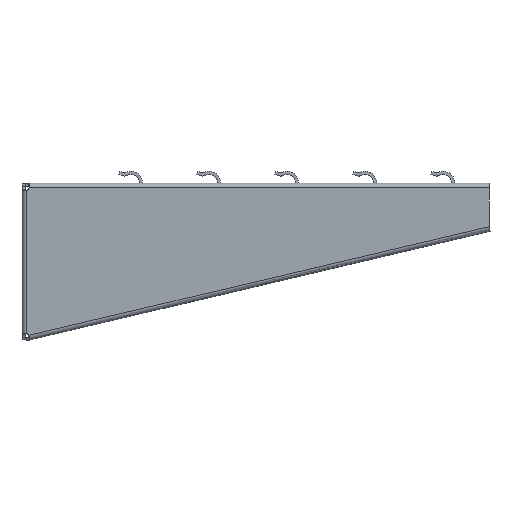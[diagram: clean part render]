
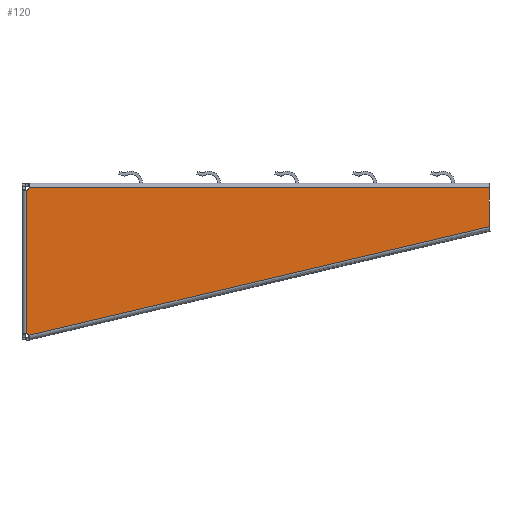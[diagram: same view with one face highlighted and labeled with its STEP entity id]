
A CAD part, left-side view. The second image highlights one B-rep face of the part: STEP entity #120.
In plain terms, the highlighted planar face has unit normal (-1, 0, 0).
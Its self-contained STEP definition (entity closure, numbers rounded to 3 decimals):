
#120=ADVANCED_FACE('',(#262),#2353,.T.);
#262=FACE_OUTER_BOUND('',#413,.T.);
#413=EDGE_LOOP('',(#887,#888,#889,#890,#891,#892,#893,#894,#895,#896,#897,
#898,#899,#900));
#887=ORIENTED_EDGE('',*,*,#1451,.T.);
#888=ORIENTED_EDGE('',*,*,#1349,.T.);
#889=ORIENTED_EDGE('',*,*,#1341,.T.);
#890=ORIENTED_EDGE('',*,*,#1338,.T.);
#891=ORIENTED_EDGE('',*,*,#1335,.T.);
#892=ORIENTED_EDGE('',*,*,#1332,.T.);
#893=ORIENTED_EDGE('',*,*,#1449,.T.);
#894=ORIENTED_EDGE('',*,*,#1347,.T.);
#895=ORIENTED_EDGE('',*,*,#1329,.T.);
#896=ORIENTED_EDGE('',*,*,#1326,.T.);
#897=ORIENTED_EDGE('',*,*,#1323,.T.);
#898=ORIENTED_EDGE('',*,*,#1320,.T.);
#899=ORIENTED_EDGE('',*,*,#1455,.F.);
#900=ORIENTED_EDGE('',*,*,#1343,.T.);
#1320=EDGE_CURVE('',#2058,#2056,#1628,.T.);
#1323=EDGE_CURVE('',#2060,#2058,#1631,.T.);
#1326=EDGE_CURVE('',#2062,#2060,#1634,.T.);
#1329=EDGE_CURVE('',#2064,#2062,#1637,.T.);
#1332=EDGE_CURVE('',#2066,#2052,#1640,.T.);
#1335=EDGE_CURVE('',#2068,#2066,#1643,.T.);
#1338=EDGE_CURVE('',#2070,#2068,#1646,.T.);
#1341=EDGE_CURVE('',#2072,#2070,#1649,.T.);
#1343=EDGE_CURVE('',#2074,#2075,#1918,.T.);
#1347=EDGE_CURVE('',#2054,#2064,#1652,.T.);
#1349=EDGE_CURVE('',#2078,#2072,#1654,.T.);
#1449=EDGE_CURVE('',#2052,#2054,#1720,.T.);
#1451=EDGE_CURVE('',#2075,#2078,#1722,.T.);
#1455=EDGE_CURVE('',#2074,#2056,#1726,.T.);
#1628=(
BOUNDED_CURVE()
B_SPLINE_CURVE(2,(#3738,#3739,#3740),.UNSPECIFIED.,.F.,.F.)
B_SPLINE_CURVE_WITH_KNOTS((3,3),(-699.049,-698.449),
 .UNSPECIFIED.)
CURVE()
GEOMETRIC_REPRESENTATION_ITEM()
RATIONAL_B_SPLINE_CURVE((1.,0.993,1.))
REPRESENTATION_ITEM('')
);
#1631=(
BOUNDED_CURVE()
B_SPLINE_CURVE(2,(#3746,#3747,#3748),.UNSPECIFIED.,.F.,.F.)
B_SPLINE_CURVE_WITH_KNOTS((3,3),(-699.056,-699.049),
 .UNSPECIFIED.)
CURVE()
GEOMETRIC_REPRESENTATION_ITEM()
RATIONAL_B_SPLINE_CURVE((1.,1.,1.))
REPRESENTATION_ITEM('')
);
#1634=(
BOUNDED_CURVE()
B_SPLINE_CURVE(2,(#3754,#3755,#3756),.UNSPECIFIED.,.F.,.F.)
B_SPLINE_CURVE_WITH_KNOTS((3,3),(-699.657,-699.056),
 .UNSPECIFIED.)
CURVE()
GEOMETRIC_REPRESENTATION_ITEM()
RATIONAL_B_SPLINE_CURVE((1.,0.993,1.))
REPRESENTATION_ITEM('')
);
#1637=(
BOUNDED_CURVE()
B_SPLINE_CURVE(2,(#3762,#3763,#3764),.UNSPECIFIED.,.F.,.F.)
B_SPLINE_CURVE_WITH_KNOTS((3,3),(-699.661,-699.657),
 .UNSPECIFIED.)
CURVE()
GEOMETRIC_REPRESENTATION_ITEM()
RATIONAL_B_SPLINE_CURVE((1.,1.,1.))
REPRESENTATION_ITEM('')
);
#1640=(
BOUNDED_CURVE()
B_SPLINE_CURVE(2,(#3770,#3771,#3772),.UNSPECIFIED.,.F.,.F.)
B_SPLINE_CURVE_WITH_KNOTS((3,3),(-859.88,-859.301),
 .UNSPECIFIED.)
CURVE()
GEOMETRIC_REPRESENTATION_ITEM()
RATIONAL_B_SPLINE_CURVE((1.,0.993,1.))
REPRESENTATION_ITEM('')
);
#1643=(
BOUNDED_CURVE()
B_SPLINE_CURVE(2,(#3778,#3779,#3780),.UNSPECIFIED.,.F.,.F.)
B_SPLINE_CURVE_WITH_KNOTS((3,3),(-859.888,-859.88),
 .UNSPECIFIED.)
CURVE()
GEOMETRIC_REPRESENTATION_ITEM()
RATIONAL_B_SPLINE_CURVE((1.,1.,1.))
REPRESENTATION_ITEM('')
);
#1646=(
BOUNDED_CURVE()
B_SPLINE_CURVE(2,(#3786,#3787,#3788),.UNSPECIFIED.,.F.,.F.)
B_SPLINE_CURVE_WITH_KNOTS((3,3),(-861.069,-859.888),
 .UNSPECIFIED.)
CURVE()
GEOMETRIC_REPRESENTATION_ITEM()
RATIONAL_B_SPLINE_CURVE((1.,0.972,1.))
REPRESENTATION_ITEM('')
);
#1649=(
BOUNDED_CURVE()
B_SPLINE_CURVE(2,(#3794,#3795,#3796),.UNSPECIFIED.,.F.,.F.)
B_SPLINE_CURVE_WITH_KNOTS((3,3),(-861.072,-861.069),
 .UNSPECIFIED.)
CURVE()
GEOMETRIC_REPRESENTATION_ITEM()
RATIONAL_B_SPLINE_CURVE((1.,1.,1.))
REPRESENTATION_ITEM('')
);
#1652=(
BOUNDED_CURVE()
B_SPLINE_CURVE(2,(#3813,#3814,#3815),.UNSPECIFIED.,.F.,.F.)
B_SPLINE_CURVE_WITH_KNOTS((3,3),(-700.247,-699.661),
 .UNSPECIFIED.)
CURVE()
GEOMETRIC_REPRESENTATION_ITEM()
RATIONAL_B_SPLINE_CURVE((1.,0.994,1.))
REPRESENTATION_ITEM('')
);
#1654=(
BOUNDED_CURVE()
B_SPLINE_CURVE(2,(#3819,#3820,#3821),.UNSPECIFIED.,.F.,.F.)
B_SPLINE_CURVE_WITH_KNOTS((3,3),(-861.658,-861.072),
 .UNSPECIFIED.)
CURVE()
GEOMETRIC_REPRESENTATION_ITEM()
RATIONAL_B_SPLINE_CURVE((1.,0.993,1.))
REPRESENTATION_ITEM('')
);
#1720=(
BOUNDED_CURVE()
B_SPLINE_CURVE(1,(#4238,#4239),.UNSPECIFIED.,.F.,.F.)
B_SPLINE_CURVE_WITH_KNOTS((2,2),(0.,91.938),.UNSPECIFIED.)
CURVE()
GEOMETRIC_REPRESENTATION_ITEM()
RATIONAL_B_SPLINE_CURVE((1.,1.))
REPRESENTATION_ITEM('')
);
#1722=(
BOUNDED_CURVE()
B_SPLINE_CURVE(1,(#4242,#4243),.UNSPECIFIED.,.F.,.F.)
B_SPLINE_CURVE_WITH_KNOTS((2,2),(-294.93,0.),.UNSPECIFIED.)
CURVE()
GEOMETRIC_REPRESENTATION_ITEM()
RATIONAL_B_SPLINE_CURVE((1.,1.))
REPRESENTATION_ITEM('')
);
#1726=(
BOUNDED_CURVE()
B_SPLINE_CURVE(1,(#4250,#4251),.UNSPECIFIED.,.F.,.F.)
B_SPLINE_CURVE_WITH_KNOTS((2,2),(-303.295,-0.011),
 .UNSPECIFIED.)
CURVE()
GEOMETRIC_REPRESENTATION_ITEM()
RATIONAL_B_SPLINE_CURVE((1.,1.))
REPRESENTATION_ITEM('')
);
#1918=B_SPLINE_CURVE_WITH_KNOTS('',1,(#3800,#3801),.UNSPECIFIED.,.F.,.F.,
(2,2),(-1237.585,-1212.685),.UNSPECIFIED.);
#2052=VERTEX_POINT('',#3384);
#2054=VERTEX_POINT('',#3386);
#2056=VERTEX_POINT('',#3388);
#2058=VERTEX_POINT('',#3390);
#2060=VERTEX_POINT('',#3392);
#2062=VERTEX_POINT('',#3394);
#2064=VERTEX_POINT('',#3396);
#2066=VERTEX_POINT('',#3398);
#2068=VERTEX_POINT('',#3400);
#2070=VERTEX_POINT('',#3402);
#2072=VERTEX_POINT('',#3404);
#2074=VERTEX_POINT('',#3406);
#2075=VERTEX_POINT('',#3407);
#2078=VERTEX_POINT('',#3410);
#2353=PLANE('',#2498);
#2498=AXIS2_PLACEMENT_3D('',#3304,#2588,$);
#2588=DIRECTION('',(-1.,0.,0.));
#3304=CARTESIAN_POINT('',(-15.265,28.346,26.922));
#3384=CARTESIAN_POINT('',(-15.265,-1.979,-3.089));
#3386=CARTESIAN_POINT('',(-15.265,-1.979,-95.026));
#3388=CARTESIAN_POINT('',(-15.265,-3.335,-96.108));
#3390=CARTESIAN_POINT('',(-15.265,-2.971,-95.641));
#3392=CARTESIAN_POINT('',(-15.265,-2.966,-95.636));
#3394=CARTESIAN_POINT('',(-15.265,-2.498,-95.267));
#3396=CARTESIAN_POINT('',(-15.265,-2.495,-95.265));
#3398=CARTESIAN_POINT('',(-15.265,-2.498,-2.848));
#3400=CARTESIAN_POINT('',(-15.265,-2.505,-2.844));
#3402=CARTESIAN_POINT('',(-15.265,-3.327,-2.019));
#3404=CARTESIAN_POINT('',(-15.265,-3.329,-2.017));
#3406=CARTESIAN_POINT('',(-15.265,-298.498,-26.4));
#3407=CARTESIAN_POINT('',(-15.265,-298.498,-1.5));
#3410=CARTESIAN_POINT('',(-15.265,-3.568,-1.5));
#3738=CARTESIAN_POINT('',(-15.265,-2.971,-95.641));
#3739=CARTESIAN_POINT('',(-15.265,-3.181,-95.853));
#3740=CARTESIAN_POINT('',(-15.265,-3.335,-96.108));
#3746=CARTESIAN_POINT('',(-15.265,-2.966,-95.636));
#3747=CARTESIAN_POINT('',(-15.265,-2.968,-95.639));
#3748=CARTESIAN_POINT('',(-15.265,-2.971,-95.641));
#3754=CARTESIAN_POINT('',(-15.265,-2.498,-95.267));
#3755=CARTESIAN_POINT('',(-15.265,-2.754,-95.423));
#3756=CARTESIAN_POINT('',(-15.265,-2.966,-95.636));
#3762=CARTESIAN_POINT('',(-15.265,-2.495,-95.265));
#3763=CARTESIAN_POINT('',(-15.265,-2.497,-95.266));
#3764=CARTESIAN_POINT('',(-15.265,-2.498,-95.267));
#3770=CARTESIAN_POINT('',(-15.265,-2.498,-2.848));
#3771=CARTESIAN_POINT('',(-15.265,-2.252,-2.998));
#3772=CARTESIAN_POINT('',(-15.265,-1.979,-3.089));
#3778=CARTESIAN_POINT('',(-15.265,-2.505,-2.844));
#3779=CARTESIAN_POINT('',(-15.265,-2.501,-2.846));
#3780=CARTESIAN_POINT('',(-15.265,-2.498,-2.848));
#3786=CARTESIAN_POINT('',(-15.265,-3.327,-2.019));
#3787=CARTESIAN_POINT('',(-15.265,-3.015,-2.53));
#3788=CARTESIAN_POINT('',(-15.265,-2.505,-2.844));
#3794=CARTESIAN_POINT('',(-15.265,-3.329,-2.017));
#3795=CARTESIAN_POINT('',(-15.265,-3.328,-2.018));
#3796=CARTESIAN_POINT('',(-15.265,-3.327,-2.019));
#3800=CARTESIAN_POINT('',(-15.265,-298.498,-26.4));
#3801=CARTESIAN_POINT('',(-15.265,-298.498,-1.5));
#3813=CARTESIAN_POINT('',(-15.265,-1.979,-95.026));
#3814=CARTESIAN_POINT('',(-15.265,-2.251,-95.116));
#3815=CARTESIAN_POINT('',(-15.265,-2.495,-95.265));
#3819=CARTESIAN_POINT('',(-15.265,-3.568,-1.5));
#3820=CARTESIAN_POINT('',(-15.265,-3.478,-1.772));
#3821=CARTESIAN_POINT('',(-15.265,-3.329,-2.017));
#4238=CARTESIAN_POINT('',(-15.265,-1.979,-3.089));
#4239=CARTESIAN_POINT('',(-15.265,-1.979,-95.026));
#4242=CARTESIAN_POINT('',(-15.265,-298.498,-1.5));
#4243=CARTESIAN_POINT('',(-15.265,-3.568,-1.5));
#4250=CARTESIAN_POINT('',(-15.265,-298.498,-26.4));
#4251=CARTESIAN_POINT('',(-15.265,-3.335,-96.108));
